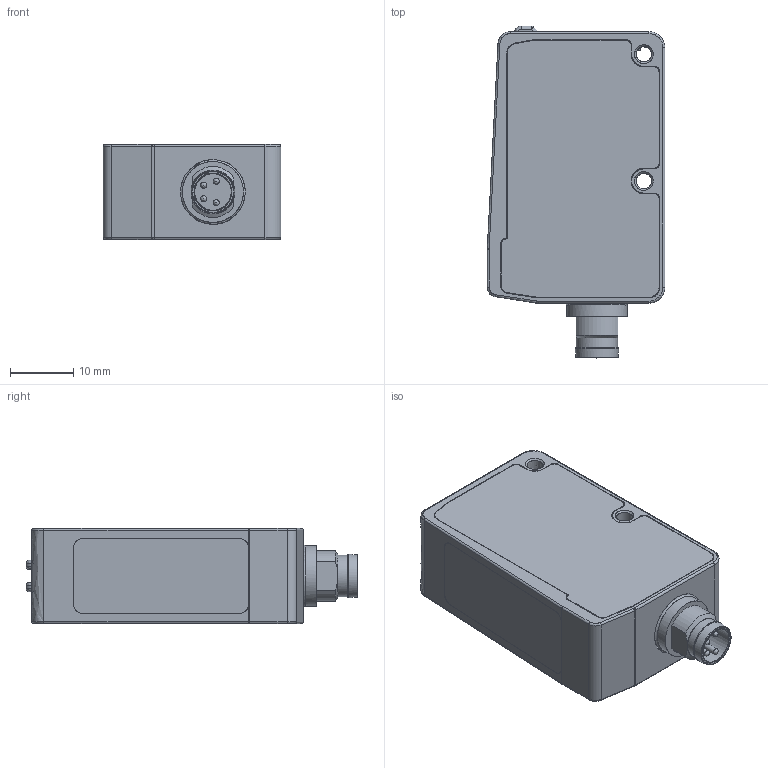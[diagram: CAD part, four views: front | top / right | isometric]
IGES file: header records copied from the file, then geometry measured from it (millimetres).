
Start section: JAMA-IS VERSION  1.0
Global section: file name: D:\CS\IDF\TESTPCB\DSD-0442.igs; native system: NX V12.0; preprocessor: SIEMENS PLM Software NX 12.0; date: 200922.155322; units: millimetre
Bounding box: 28 x 52.35 x 15 mm (x, y, z)
Surface area: 5770.7 mm2 (no closed solid volume)
Topology: 0 solids, 0 shells, 244 faces, 1449 edges, 1414 vertices
Faces by surface type: bspline 244
